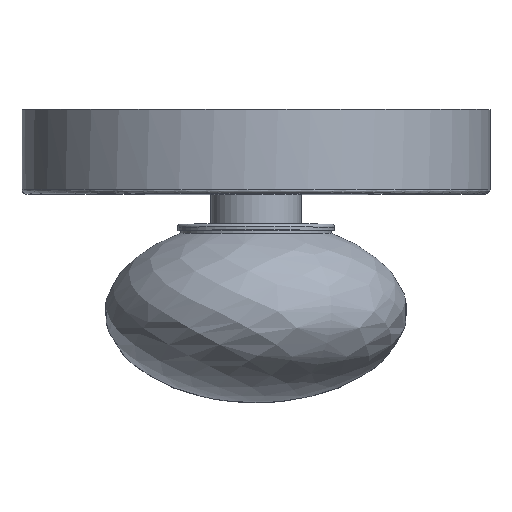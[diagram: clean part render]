
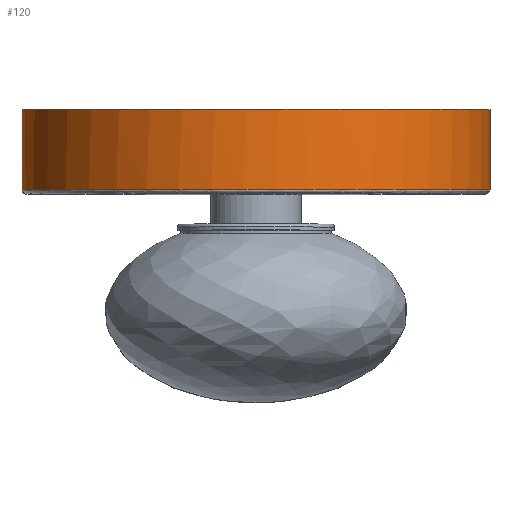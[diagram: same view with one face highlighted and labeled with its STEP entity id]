
A CAD part, top view. The second image highlights one B-rep face of the part: STEP entity #120.
In plain terms, the highlighted cylindrical face has radius 77.5 mm (diameter 155 mm), a full revolution.
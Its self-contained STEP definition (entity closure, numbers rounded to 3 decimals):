
#120=ADVANCED_FACE('',(#293),#2101,.T.);
#293=FACE_OUTER_BOUND('',#441,.T.);
#441=EDGE_LOOP('',(#624,#625,#626,#627));
#624=ORIENTED_EDGE('',*,*,#1257,.T.);
#625=ORIENTED_EDGE('',*,*,#1252,.F.);
#626=ORIENTED_EDGE('',*,*,#1257,.F.);
#627=ORIENTED_EDGE('',*,*,#1256,.F.);
#1252=EDGE_CURVE('',#1896,#1896,#1569,.T.);
#1256=EDGE_CURVE('',#1898,#1898,#1573,.T.);
#1257=EDGE_CURVE('',#1898,#1896,#1787,.T.);
#1569=(
BOUNDED_CURVE()
B_SPLINE_CURVE(2,(#2588,#2589,#2590,#2591,#2592,#2593,#2594,#2595,#2596),
 .UNSPECIFIED.,.T.,.F.)
B_SPLINE_CURVE_WITH_KNOTS((3,2,2,2,3),(0.,121.737,243.473,
365.21,486.947),.UNSPECIFIED.)
CURVE()
GEOMETRIC_REPRESENTATION_ITEM()
RATIONAL_B_SPLINE_CURVE((1.,0.707,1.,0.707,1.,0.707,
1.,0.707,1.))
REPRESENTATION_ITEM('')
);
#1573=(
BOUNDED_CURVE()
B_SPLINE_CURVE(2,(#2624,#2625,#2626,#2627,#2628,#2629,#2630,#2631,#2632),
 .UNSPECIFIED.,.T.,.F.)
B_SPLINE_CURVE_WITH_KNOTS((3,2,2,2,3),(0.,119.38,
238.761,358.141,477.521),.UNSPECIFIED.)
CURVE()
GEOMETRIC_REPRESENTATION_ITEM()
RATIONAL_B_SPLINE_CURVE((1.,0.707,1.,0.707,1.,0.707,
1.,0.707,1.))
REPRESENTATION_ITEM('')
);
#1787=B_SPLINE_CURVE_WITH_KNOTS('',1,(#2633,#2634),.UNSPECIFIED.,.F.,.F.,
(2,2),(79.,105.5),.UNSPECIFIED.);
#1896=VERTEX_POINT('',#2573);
#1898=VERTEX_POINT('',#2575);
#2101=CYLINDRICAL_SURFACE('',#2264,77.5);
#2264=AXIS2_PLACEMENT_3D('',#2539,#2374,$);
#2374=DIRECTION('',(0.,1.,0.));
#2539=CARTESIAN_POINT('',(0.,-14.,0.));
#2573=CARTESIAN_POINT('',(-77.5,0.,0.));
#2575=CARTESIAN_POINT('',(-77.5,-26.5,0.));
#2588=CARTESIAN_POINT('',(-77.5,0.,0.));
#2589=CARTESIAN_POINT('',(-77.5,0.,77.5));
#2590=CARTESIAN_POINT('',(0.,0.,77.5));
#2591=CARTESIAN_POINT('',(77.5,0.,77.5));
#2592=CARTESIAN_POINT('',(77.5,0.,0.));
#2593=CARTESIAN_POINT('',(77.5,0.,-77.5));
#2594=CARTESIAN_POINT('',(0.,0.,-77.5));
#2595=CARTESIAN_POINT('',(-77.5,0.,-77.5));
#2596=CARTESIAN_POINT('',(-77.5,0.,0.));
#2624=CARTESIAN_POINT('',(-77.5,-26.5,0.));
#2625=CARTESIAN_POINT('',(-77.5,-26.5,-77.5));
#2626=CARTESIAN_POINT('',(0.,-26.5,-77.5));
#2627=CARTESIAN_POINT('',(77.5,-26.5,-77.5));
#2628=CARTESIAN_POINT('',(77.5,-26.5,0.));
#2629=CARTESIAN_POINT('',(77.5,-26.5,77.5));
#2630=CARTESIAN_POINT('',(0.,-26.5,77.5));
#2631=CARTESIAN_POINT('',(-77.5,-26.5,77.5));
#2632=CARTESIAN_POINT('',(-77.5,-26.5,0.));
#2633=CARTESIAN_POINT('',(-77.5,-26.5,0.));
#2634=CARTESIAN_POINT('',(-77.5,0.,0.));
